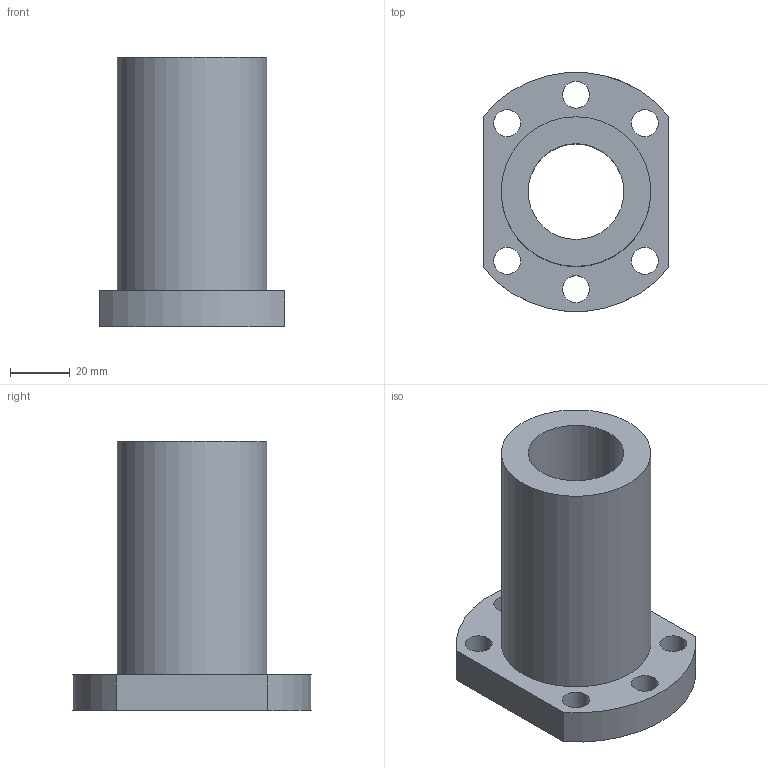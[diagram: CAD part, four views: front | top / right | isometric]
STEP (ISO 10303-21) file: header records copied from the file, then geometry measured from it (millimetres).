
FILE_DESCRIPTION(('STEP AP214'), '1');
FILE_NAME('Ãàéêà ØÂÏ SFU3210-TBI', '', ('UNSPECIFIED'), ('UNSPECIFIED'), 'ASCON STEP Converter 1.6', 'ASCON Math Kernel', '');
FILE_SCHEMA(('AUTOMOTIVE_DESIGN { 1 0 10303 214 3 1 1}'));
Length unit declared in the file: millimetre
Bounding box: 62 x 79.74 x 90 mm (x, y, z)
Volume: 128590.6 mm3; surface area: 33022.8 mm2
Topology: 1 solids, 1 shells, 16 faces, 39 edges, 26 vertices
Faces by surface type: cylinder 11, plane 5
Full cylindrical faces by diameter (mm): 4.917 x1, 9 x6, 32 x1, 50 x1
Entity records: 778 total; most frequent: CARTESIAN_POINT 213, DIRECTION 82, ORIENTED_EDGE 60, EDGE_LOOP 42, AXIS2_PLACEMENT_3D 37, EDGE_CURVE 30, VERTEX_POINT 26, FACE_BOUND 24
